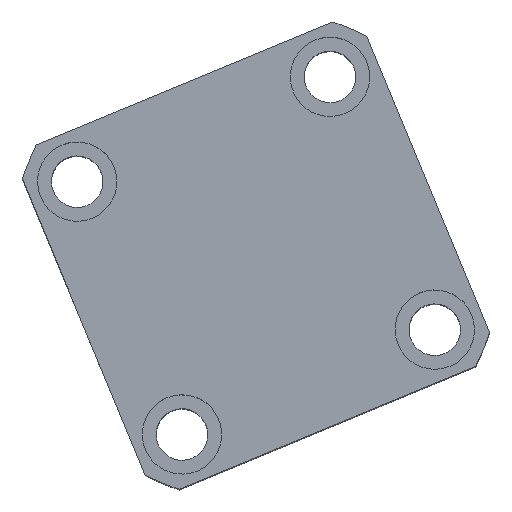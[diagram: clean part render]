
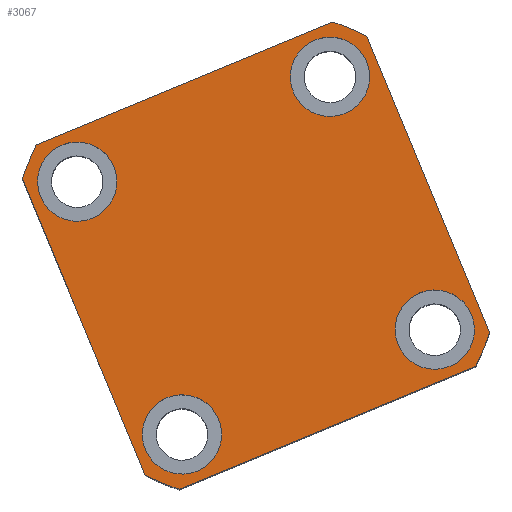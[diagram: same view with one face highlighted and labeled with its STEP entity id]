
A CAD part, top view. The second image highlights one B-rep face of the part: STEP entity #3067.
In plain terms, the highlighted planar face has unit normal (0, 0, 1) as drawn and (0, 0, -1) by its records, which use the part's own axes.
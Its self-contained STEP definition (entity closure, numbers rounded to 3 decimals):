
#14 = VECTOR ( 'NONE', #6601, 1000. ) ;
#194 = ORIENTED_EDGE ( 'NONE', *, *, #13716, .F. ) ;
#433 = AXIS2_PLACEMENT_3D ( 'NONE', #6913, #19019, #8661 ) ;
#456 = CARTESIAN_POINT ( 'NONE',  ( 24.5, -34.5, 0. ) ) ;
#639 = EDGE_CURVE ( 'NONE', #9962, #8053, #4002, .T. ) ;
#783 = CIRCLE ( 'NONE', #13154, 10. ) ;
#800 = EDGE_CURVE ( 'NONE', #8053, #14671, #11548, .T. ) ;
#828 = FACE_BOUND ( 'NONE', #15833, .T. ) ;
#1019 = DIRECTION ( 'NONE',  ( 0., 0., -1. ) ) ;
#1103 = AXIS2_PLACEMENT_3D ( 'NONE', #8385, #20461, #10117 ) ;
#1352 = FACE_OUTER_BOUND ( 'NONE', #17034, .T. ) ;
#1386 = CIRCLE ( 'NONE', #433, 62. ) ;
#1490 = EDGE_CURVE ( 'NONE', #14671, #15343, #15331, .T. ) ;
#1850 = CARTESIAN_POINT ( 'NONE',  ( -40.435, 47., 0. ) ) ;
#2067 = CARTESIAN_POINT ( 'NONE',  ( 44.5, -34.5, 0. ) ) ;
#2123 = CARTESIAN_POINT ( 'NONE',  ( 0., 0., 0. ) ) ;
#2287 = ORIENTED_EDGE ( 'NONE', *, *, #5996, .F. ) ;
#2346 = LINE ( 'NONE', #14170, #10431 ) ;
#2485 = EDGE_LOOP ( 'NONE', ( #13880, #2987 ) ) ;
#2614 = CIRCLE ( 'NONE', #1103, 10. ) ;
#2695 = CIRCLE ( 'NONE', #13336, 10. ) ;
#2798 = DIRECTION ( 'NONE',  ( 0., 0., -1. ) ) ;
#2987 = ORIENTED_EDGE ( 'NONE', *, *, #4642, .F. ) ;
#3041 = VERTEX_POINT ( 'NONE', #10735 ) ;
#3067 = ADVANCED_FACE ( 'NONE', ( #14053, #5392, #828, #9475, #1352 ), #12463, .F. ) ;
#3087 = VERTEX_POINT ( 'NONE', #456 ) ;
#3476 = CARTESIAN_POINT ( 'NONE',  ( -44.5, -34.5, 0. ) ) ;
#3511 = CIRCLE ( 'NONE', #14217, 62. ) ;
#3675 = VERTEX_POINT ( 'NONE', #8705 ) ;
#3866 = DIRECTION ( 'NONE',  ( 1., 0., 0. ) ) ;
#3960 = CARTESIAN_POINT ( 'NONE',  ( 34.5, 34.5, 0. ) ) ;
#3966 = EDGE_CURVE ( 'NONE', #15343, #13861, #3511, .T. ) ;
#4002 = LINE ( 'NONE', #11010, #8039 ) ;
#4253 = CARTESIAN_POINT ( 'NONE',  ( 0., 0., 0. ) ) ;
#4306 = CARTESIAN_POINT ( 'NONE',  ( 24.5, 34.5, 0. ) ) ;
#4556 = CIRCLE ( 'NONE', #19827, 10. ) ;
#4561 = ORIENTED_EDGE ( 'NONE', *, *, #15979, .F. ) ;
#4596 = LINE ( 'NONE', #15212, #14 ) ;
#4642 = EDGE_CURVE ( 'NONE', #15326, #15068, #5369, .T. ) ;
#4648 = DIRECTION ( 'NONE',  ( 0., 0., 1. ) ) ;
#4800 = CARTESIAN_POINT ( 'NONE',  ( 44.5, 34.5, 0. ) ) ;
#4936 = EDGE_CURVE ( 'NONE', #3041, #3675, #2695, .T. ) ;
#5222 = EDGE_CURVE ( 'NONE', #3087, #21049, #4556, .T. ) ;
#5369 = CIRCLE ( 'NONE', #20725, 10. ) ;
#5392 = FACE_BOUND ( 'NONE', #8599, .T. ) ;
#5631 = DIRECTION ( 'NONE',  ( 0., 0., -1. ) ) ;
#5641 = EDGE_LOOP ( 'NONE', ( #2287, #9538 ) ) ;
#5699 = DIRECTION ( 'NONE',  ( -1., 0., 0. ) ) ;
#5990 = DIRECTION ( 'NONE',  ( 1., 0., 0. ) ) ;
#5996 = EDGE_CURVE ( 'NONE', #3675, #3041, #783, .T. ) ;
#6134 = VECTOR ( 'NONE', #6381, 1000. ) ;
#6212 = AXIS2_PLACEMENT_3D ( 'NONE', #7896, #19990, #9633 ) ;
#6331 = CARTESIAN_POINT ( 'NONE',  ( -24.5, -34.5, 0. ) ) ;
#6381 = DIRECTION ( 'NONE',  ( 1., 0., 0. ) ) ;
#6509 = AXIS2_PLACEMENT_3D ( 'NONE', #9728, #4648, #16751 ) ;
#6601 = DIRECTION ( 'NONE',  ( 0., 1., 0. ) ) ;
#6835 = EDGE_CURVE ( 'NONE', #11860, #9962, #17244, .T. ) ;
#6868 = AXIS2_PLACEMENT_3D ( 'NONE', #12584, #13418, #20603 ) ;
#6913 = CARTESIAN_POINT ( 'NONE',  ( 0., 0., 0. ) ) ;
#7294 = CARTESIAN_POINT ( 'NONE',  ( -34.5, 34.5, 0. ) ) ;
#7745 = ORIENTED_EDGE ( 'NONE', *, *, #800, .F. ) ;
#7896 = CARTESIAN_POINT ( 'NONE',  ( -34.5, -34.5, 0. ) ) ;
#7933 = CARTESIAN_POINT ( 'NONE',  ( 47., 40.435, 0. ) ) ;
#8039 = VECTOR ( 'NONE', #11616, 1000. ) ;
#8053 = VERTEX_POINT ( 'NONE', #13858 ) ;
#8385 = CARTESIAN_POINT ( 'NONE',  ( 34.5, -34.5, 0. ) ) ;
#8444 = ORIENTED_EDGE ( 'NONE', *, *, #6835, .F. ) ;
#8599 = EDGE_LOOP ( 'NONE', ( #19360, #4561 ) ) ;
#8661 = DIRECTION ( 'NONE',  ( 1., 0., 0. ) ) ;
#8705 = CARTESIAN_POINT ( 'NONE',  ( -44.5, 34.5, 0. ) ) ;
#9035 = DIRECTION ( 'NONE',  ( -1., 0., 0. ) ) ;
#9349 = CARTESIAN_POINT ( 'NONE',  ( 34.5, 34.5, 0. ) ) ;
#9419 = VERTEX_POINT ( 'NONE', #6331 ) ;
#9475 = FACE_BOUND ( 'NONE', #2485, .T. ) ;
#9538 = ORIENTED_EDGE ( 'NONE', *, *, #4936, .F. ) ;
#9633 = DIRECTION ( 'NONE',  ( -1., 0., 0. ) ) ;
#9728 = CARTESIAN_POINT ( 'NONE',  ( 0., 0., 0. ) ) ;
#9962 = VERTEX_POINT ( 'NONE', #20429 ) ;
#10117 = DIRECTION ( 'NONE',  ( -1., 0., 0. ) ) ;
#10172 = ORIENTED_EDGE ( 'NONE', *, *, #5222, .F. ) ;
#10431 = VECTOR ( 'NONE', #21126, 1000. ) ;
#10529 = EDGE_CURVE ( 'NONE', #21049, #3087, #2614, .T. ) ;
#10532 = CARTESIAN_POINT ( 'NONE',  ( -40.435, -47., 0. ) ) ;
#10735 = CARTESIAN_POINT ( 'NONE',  ( -24.5, 34.5, 0. ) ) ;
#10763 = VERTEX_POINT ( 'NONE', #3476 ) ;
#11010 = CARTESIAN_POINT ( 'NONE',  ( -47., 47., 0. ) ) ;
#11093 = DIRECTION ( 'NONE',  ( -1., 0., 0. ) ) ;
#11370 = CARTESIAN_POINT ( 'NONE',  ( 34.5, -34.5, 0. ) ) ;
#11378 = CARTESIAN_POINT ( 'NONE',  ( 47., -40.435, 0. ) ) ;
#11421 = AXIS2_PLACEMENT_3D ( 'NONE', #13128, #2798, #14877 ) ;
#11548 = CIRCLE ( 'NONE', #6868, 62. ) ;
#11616 = DIRECTION ( 'NONE',  ( 0., -1., 0. ) ) ;
#11860 = VERTEX_POINT ( 'NONE', #1850 ) ;
#11944 = ORIENTED_EDGE ( 'NONE', *, *, #15528, .F. ) ;
#12183 = CIRCLE ( 'NONE', #18258, 10. ) ;
#12463 = PLANE ( 'NONE',  #19727 ) ;
#12584 = CARTESIAN_POINT ( 'NONE',  ( 0., 0., 0. ) ) ;
#12935 = ORIENTED_EDGE ( 'NONE', *, *, #3966, .F. ) ;
#13052 = EDGE_CURVE ( 'NONE', #10763, #9419, #15318, .T. ) ;
#13096 = DIRECTION ( 'NONE',  ( -1., 0., 0. ) ) ;
#13128 = CARTESIAN_POINT ( 'NONE',  ( -34.5, -34.5, 0. ) ) ;
#13154 = AXIS2_PLACEMENT_3D ( 'NONE', #7294, #19393, #9035 ) ;
#13294 = CARTESIAN_POINT ( 'NONE',  ( -47., -47., 0. ) ) ;
#13336 = AXIS2_PLACEMENT_3D ( 'NONE', #15990, #5631, #17732 ) ;
#13418 = DIRECTION ( 'NONE',  ( 0., 0., 1. ) ) ;
#13716 = EDGE_CURVE ( 'NONE', #21818, #11860, #2346, .T. ) ;
#13858 = CARTESIAN_POINT ( 'NONE',  ( -47., -40.435, 0. ) ) ;
#13861 = VERTEX_POINT ( 'NONE', #11378 ) ;
#13880 = ORIENTED_EDGE ( 'NONE', *, *, #21029, .F. ) ;
#14053 = FACE_BOUND ( 'NONE', #5641, .T. ) ;
#14078 = CIRCLE ( 'NONE', #6212, 10. ) ;
#14170 = CARTESIAN_POINT ( 'NONE',  ( -47., 47., 0. ) ) ;
#14200 = DIRECTION ( 'NONE',  ( 0., 0., 1. ) ) ;
#14217 = AXIS2_PLACEMENT_3D ( 'NONE', #4253, #16348, #5990 ) ;
#14671 = VERTEX_POINT ( 'NONE', #10532 ) ;
#14755 = ORIENTED_EDGE ( 'NONE', *, *, #16744, .F. ) ;
#14877 = DIRECTION ( 'NONE',  ( -1., 0., 0. ) ) ;
#15068 = VERTEX_POINT ( 'NONE', #4306 ) ;
#15212 = CARTESIAN_POINT ( 'NONE',  ( 47., 47., 0. ) ) ;
#15318 = CIRCLE ( 'NONE', #11421, 10. ) ;
#15326 = VERTEX_POINT ( 'NONE', #4800 ) ;
#15331 = LINE ( 'NONE', #13294, #6134 ) ;
#15343 = VERTEX_POINT ( 'NONE', #22017 ) ;
#15528 = EDGE_CURVE ( 'NONE', #19036, #21818, #1386, .T. ) ;
#15833 = EDGE_LOOP ( 'NONE', ( #10172, #19941 ) ) ;
#15979 = EDGE_CURVE ( 'NONE', #9419, #10763, #14078, .T. ) ;
#15990 = CARTESIAN_POINT ( 'NONE',  ( -34.5, 34.5, 0. ) ) ;
#16056 = DIRECTION ( 'NONE',  ( 0., 0., -1. ) ) ;
#16348 = DIRECTION ( 'NONE',  ( 0., 0., 1. ) ) ;
#16744 = EDGE_CURVE ( 'NONE', #13861, #19036, #4596, .T. ) ;
#16751 = DIRECTION ( 'NONE',  ( 1., 0., 0. ) ) ;
#17034 = EDGE_LOOP ( 'NONE', ( #11944, #14755, #12935, #21344, #7745, #19030, #8444, #194 ) ) ;
#17244 = CIRCLE ( 'NONE', #6509, 62. ) ;
#17732 = DIRECTION ( 'NONE',  ( -1., 0., 0. ) ) ;
#18258 = AXIS2_PLACEMENT_3D ( 'NONE', #3960, #16056, #5699 ) ;
#19019 = DIRECTION ( 'NONE',  ( 0., 0., 1. ) ) ;
#19030 = ORIENTED_EDGE ( 'NONE', *, *, #639, .F. ) ;
#19036 = VERTEX_POINT ( 'NONE', #7933 ) ;
#19047 = CARTESIAN_POINT ( 'NONE',  ( 40.435, 47., 0. ) ) ;
#19360 = ORIENTED_EDGE ( 'NONE', *, *, #13052, .F. ) ;
#19393 = DIRECTION ( 'NONE',  ( 0., 0., -1. ) ) ;
#19727 = AXIS2_PLACEMENT_3D ( 'NONE', #2123, #14200, #3866 ) ;
#19827 = AXIS2_PLACEMENT_3D ( 'NONE', #11370, #1019, #13096 ) ;
#19941 = ORIENTED_EDGE ( 'NONE', *, *, #10529, .F. ) ;
#19990 = DIRECTION ( 'NONE',  ( 0., 0., -1. ) ) ;
#20429 = CARTESIAN_POINT ( 'NONE',  ( -47., 40.435, 0. ) ) ;
#20461 = DIRECTION ( 'NONE',  ( 0., 0., -1. ) ) ;
#20603 = DIRECTION ( 'NONE',  ( 1., 0., 0. ) ) ;
#20725 = AXIS2_PLACEMENT_3D ( 'NONE', #9349, #21433, #11093 ) ;
#21029 = EDGE_CURVE ( 'NONE', #15068, #15326, #12183, .T. ) ;
#21049 = VERTEX_POINT ( 'NONE', #2067 ) ;
#21126 = DIRECTION ( 'NONE',  ( -1., 0., 0. ) ) ;
#21344 = ORIENTED_EDGE ( 'NONE', *, *, #1490, .F. ) ;
#21433 = DIRECTION ( 'NONE',  ( 0., 0., -1. ) ) ;
#21818 = VERTEX_POINT ( 'NONE', #19047 ) ;
#22017 = CARTESIAN_POINT ( 'NONE',  ( 40.435, -47., 0. ) ) ;
